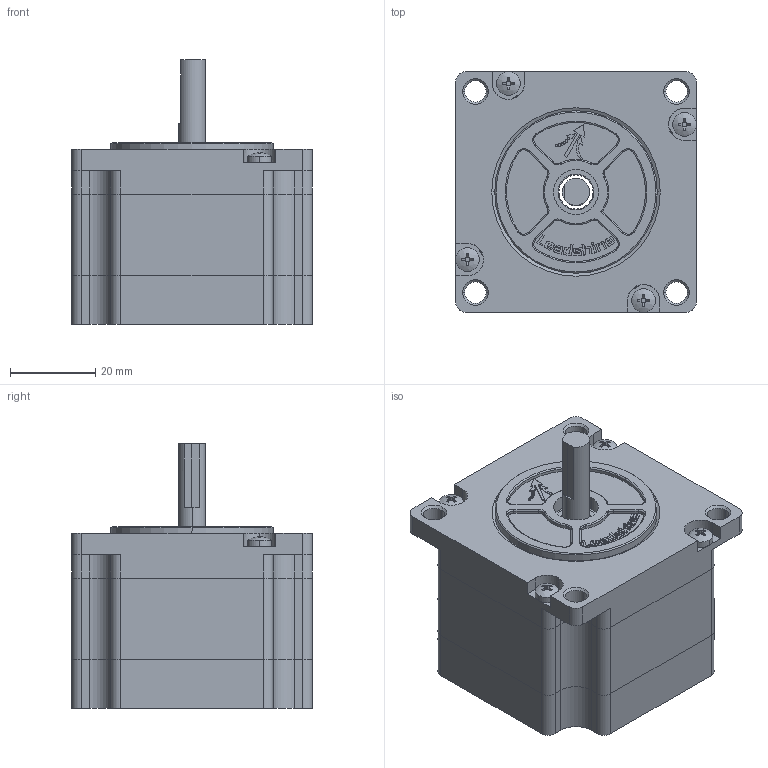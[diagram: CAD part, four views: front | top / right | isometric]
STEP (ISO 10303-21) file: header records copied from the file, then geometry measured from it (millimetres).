
FILE_DESCRIPTION (( 'STEP AP214' ), '1' );
FILE_NAME ('57CM06.STEP', '2018-06-05T06:19:06', ( 'Microsoft' ), ( 'China' ), 'SwSTEP 2.0', 'SolidWorks 2011', '' );
FILE_SCHEMA (( 'AUTOMOTIVE_DESIGN' ));
Length unit declared in the file: millimetre
Products named in the file (7): 3_Default; 1_1_04_EB572-359_Default; 1_2_04_680006_Default; 2_Default; 1_1_02_EB571-152_Default; 1_2_05_130022_Default; 57CM06
Assembly tree (13 placements, depth 2):
  57CM06
    1_2_05_130022_Default  x8
    2_Default
    1_2_04_680006_Default
    1_1_04_EB572-359_Default
    3_Default
    1_1_02_EB571-152_Default
Bounding box: 56.54 x 56.54 x 62 mm (x, y, z)
Volume: 62127.2 mm3; surface area: 40163.9 mm2
Topology: 12 solids, 17 shells, 1447 faces, 3886 edges, 2553 vertices
Faces by surface type: plane 960, cylinder 254, bspline 152, torus 53, cone 20, sphere 8
Entity records: 57394 total; most frequent: CARTESIAN_POINT 13687, ORIENTED_EDGE 6608, DIRECTION 5622, EDGE_CURVE 3312, LINE 2470, VECTOR 2470, VERTEX_POINT 2189, AXIS2_PLACEMENT_3D 1576
